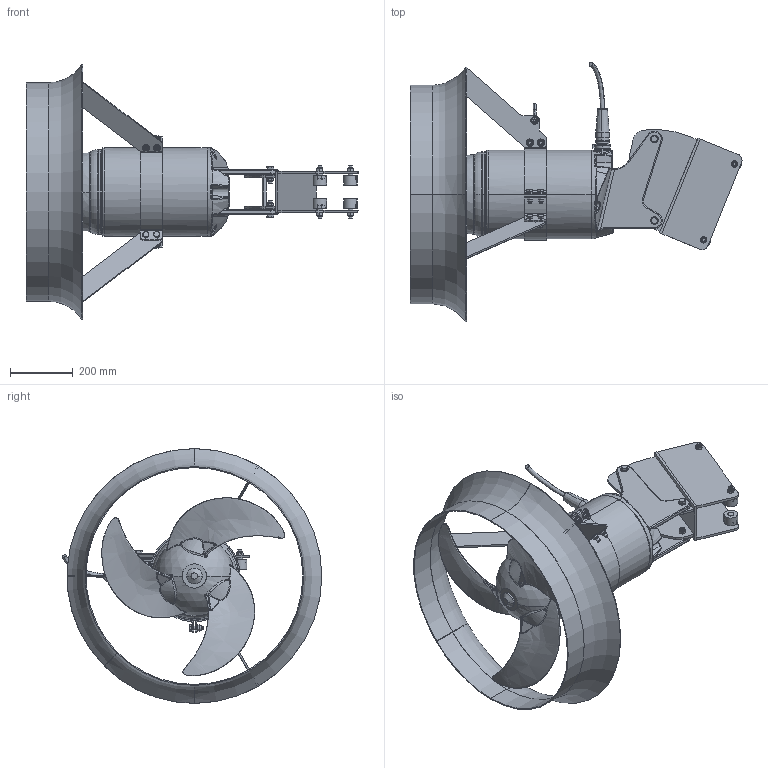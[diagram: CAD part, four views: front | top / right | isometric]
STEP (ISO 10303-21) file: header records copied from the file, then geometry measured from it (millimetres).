
FILE_DESCRIPTION (( 'STEP AP214' ), '1' );
FILE_NAME ('XRW650 Vkt.100 with flow ring and vertical angle adjustment -22°_MSD.STEP', '2017-09-28T07:13:11', ( '' ), ( '' ), 'SwSTEP 2.0', 'SolidWorks 2017', '' );
FILE_SCHEMA (( 'AUTOMOTIVE_DESIGN' ));
Length unit declared in the file: millimetre
Products named in the file (1): XRW650 Vkt.100 with flow ring and vertical angle adjustment -22°_MSD
Bounding box: 1056.27 x 826.19 x 811 mm (x, y, z)
Volume: 36232242.9 mm3; surface area: 2717269.9 mm2
Topology: 1 solids, 1 shells, 1884 faces, 4502 edges, 2724 vertices
Faces by surface type: plane 598, cone 387, cylinder 358, bspline 331, torus 179, sphere 31
Entity records: 155384 total; most frequent: CARTESIAN_POINT 114967, ORIENTED_EDGE 8910, DIRECTION 7692, EDGE_CURVE 4455, AXIS2_PLACEMENT_3D 3184, VERTEX_POINT 2716, EDGE_LOOP 2051, FACE_OUTER_BOUND 1884
